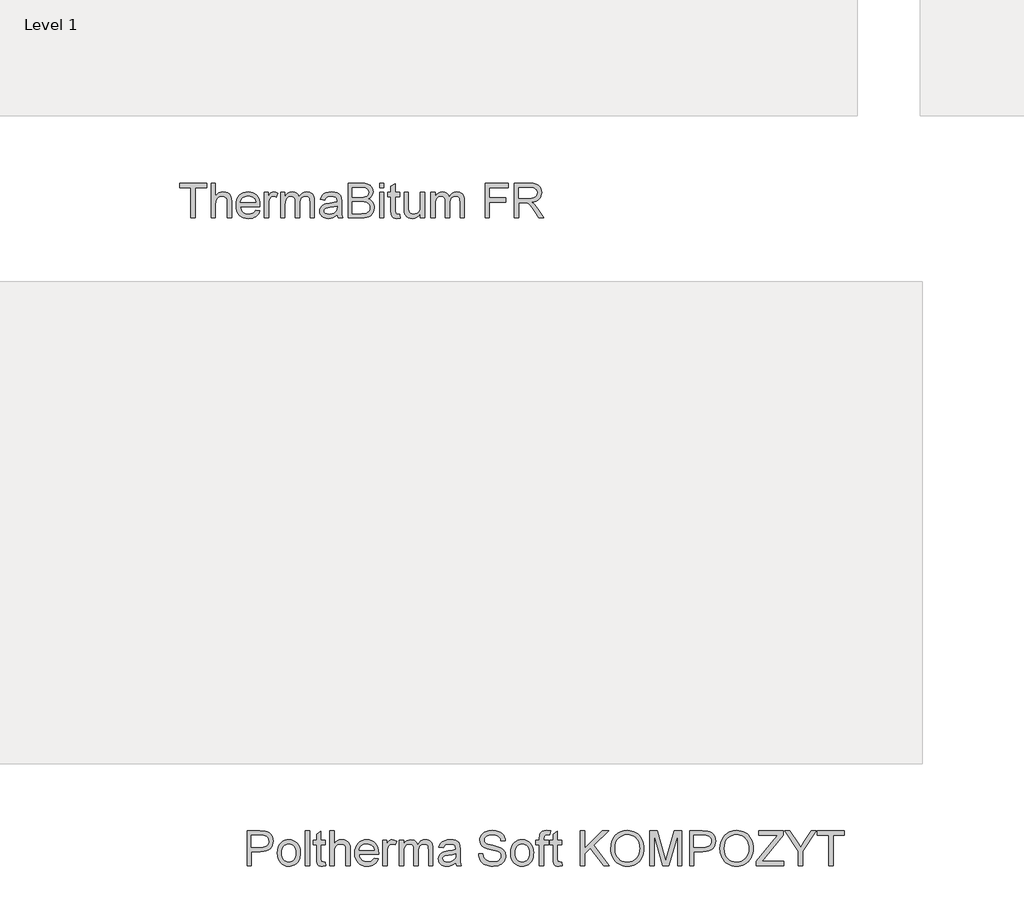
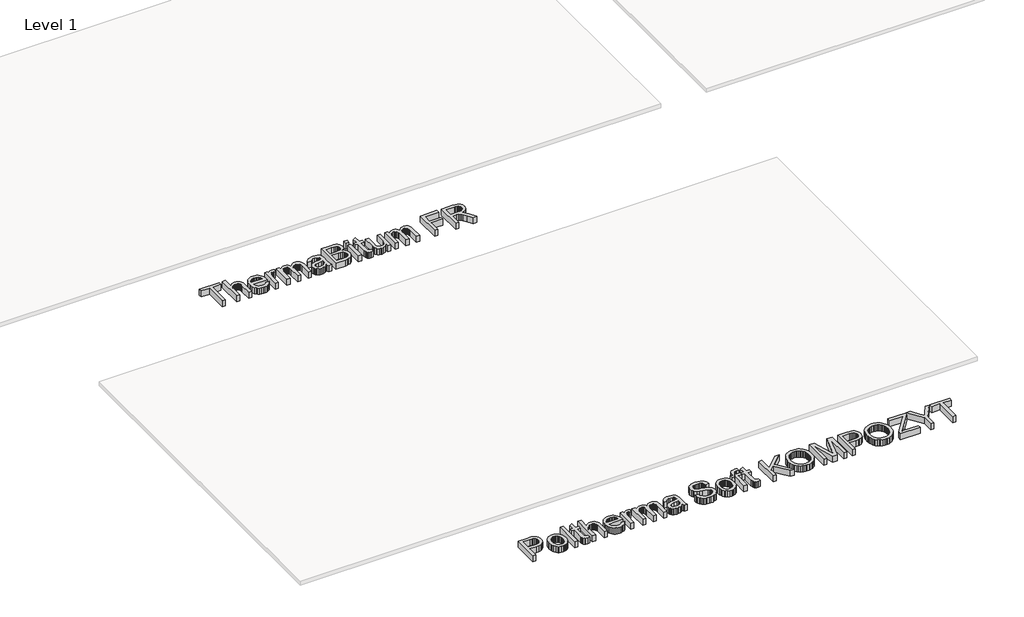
# One storey, part 17 of 27: 2 proxies.
"""IFC4 building model written with IfcOpenShell, lengths in millimetres."""

from ifc_helpers import new_model, si_unit, origin, origin_with_axes, place, context, project, spatial, polyline, outline, extrude, element, save

model = new_model("IFC4")

# Units and contexts
model_context = context("Model", 3, world=origin())
ifc_project = project(units=[si_unit("LENGTHUNIT", "METRE", prefix="MILLI")], contexts=[model_context])

# Site, building, storey
site = spatial("IfcSite", under=ifc_project)
building = spatial("IfcBuilding", under=site)
storey = spatial("IfcBuildingStorey", under=building, Name="Level 1", Elevation=0.0)

# Proxies
placement = place(None, origin())
element("IfcBuildingElementProxy", 1, Name="600mm Arial", ObjectType="600mm Arial", at=placement, inside=storey, context=model_context, shape_type="SweptSolid", body=[
    extrude(outline(polyline([(47774.77699, -34088.4076888), (47774.77699, -33571.4846119), (47580.9308362, -33571.4846119), (47580.9308362, -33497.6384581), (48042.4692977, -33497.6384581), (48042.4692977, -33571.4846119), (47848.6231439, -33571.4846119), (47848.6231439, -34088.4076888), (47774.77699, -34088.4076888)])), origin_with_axes(), (0.0, 0.0, 1.0), 150.0),
    extrude(outline(polyline([(48116.3154516, -34088.4076888), (48116.3154516, -33497.6384581), (48190.1616054, -33497.6384581), (48190.1616054, -33714.8499965), (48217.2860045, -33684.4353331), (48247.74574, -33662.7105734), (48281.5408122, -33649.6757177), (48318.6712208, -33645.3307657), (48363.2745862, -33650.0723523), (48401.6039131, -33664.2971119), (48431.7842016, -33686.8872561), (48451.9404516, -33716.7249965), (48463.2986247, -33757.7225927), (48467.0846824, -33813.7923042), (48467.0846824, -34088.4076888), (48393.2385285, -34088.4076888), (48393.2385285, -33821.436535), (48391.7691775, -33796.5026407), (48387.3611247, -33775.2105734), (48380.0143699, -33757.5603331), (48369.7289131, -33743.5519196), (48356.7481439, -33732.8878571), (48341.3154516, -33725.2706696), (48323.4308362, -33720.7003571), (48303.0942977, -33719.1769196), (48271.886365, -33723.2874965), (48242.58949, -33735.6192273), (48218.3226631, -33754.9822081), (48202.2048747, -33780.186535), (48193.1724227, -33813.6841311), (48190.1616054, -33857.9269196), (48190.1616054, -34088.4076888), (48116.3154516, -34088.4076888)])), origin_with_axes(), (0.0, 0.0, 1.0), 150.0),
    extrude(outline(polyline([(48872.3731439, -33959.1769196), (48944.77699, -33968.4076888), (48933.675728, -33997.4070879), (48918.6892497, -34022.9629773), (48899.8175549, -34045.0753571), (48877.0606439, -34063.7442273), (48850.6528915, -34078.5729532), (48820.8286727, -34089.1649004), (48787.5879876, -34095.5200686), (48750.9308362, -34097.6384581), (48705.1105237, -34093.9831095), (48664.2842016, -34083.0170638), (48628.4518699, -34064.740321), (48597.6135285, -34039.1528811), (48572.8148506, -34006.9668835), (48555.1015093, -33968.8944677), (48544.4735045, -33924.9356335), (48540.9308362, -33875.0903811), (48544.5095622, -33823.5549244), (48555.24574, -33778.1312465), (48573.1393699, -33738.8193475), (48598.1904516, -33705.6192273), (48628.9476631, -33679.2430254), (48663.9596824, -33660.4028811), (48703.2265093, -33649.0987946), (48746.7481439, -33645.3307657), (48788.8680357, -33649.0897802), (48826.9584804, -33660.3668234), (48861.019478, -33679.1618956), (48891.0510285, -33705.4749965), (48915.5657521, -33738.6030013), (48933.0762689, -33777.842785), (48943.582579, -33823.1943475), (48947.0846824, -33874.6576888), (48946.65199, -33894.561535), (48614.77699, -33894.561535), (48619.0543338, -33924.029684), (48627.559442, -33949.8379773), (48640.2923146, -33971.9864148), (48657.2529516, -33990.4749965), (48677.503853, -34005.0513186), (48700.1075189, -34015.4629773), (48725.0639492, -34021.7099725), (48752.3731439, -34023.7923042), (48791.6760285, -34019.9341311), (48824.77699, -34008.3596119), (48851.6760285, -33988.3475927), (48872.3731439, -33959.1769196)]), holes=[polyline([(48614.77699, -33820.7153811), (48873.2385285, -33820.7153811), (48863.2505477, -33781.7009581), (48854.6598025, -33766.35841), (48843.6712208, -33753.7923042), (48823.5329997, -33738.6480734), (48800.6183362, -33727.8307657), (48774.9272304, -33721.3403811), (48746.4596824, -33719.1769196), (48720.4936367, -33720.9031816), (48696.6820381, -33726.0819677), (48675.0248867, -33734.7132778), (48655.5221824, -33746.7971119), (48639.1564973, -33761.7745758), (48626.9104035, -33779.0867754), (48618.7839011, -33798.7337105), (48614.77699, -33820.7153811)])]), origin_with_axes(), (0.0, 0.0, 1.0), 150.0),
    extrude(outline(polyline([(49020.9308362, -34088.4076888), (49020.9308362, -33654.561535), (49085.5462208, -33654.561535), (49085.5462208, -33718.7442273), (49109.4164131, -33681.5326888), (49131.4116054, -33659.6096119), (49153.4789131, -33648.9004773), (49177.5654516, -33645.3307657), (49214.3442977, -33651.0278811), (49251.700067, -33668.1192273), (49227.0366054, -33734.3211504), (49201.075067, -33722.9629773), (49175.1135285, -33719.1769196), (49153.0642497, -33722.8187465), (49133.3587208, -33733.7442273), (49117.4392497, -33751.124035), (49106.7481439, -33774.1288427), (49097.7697785, -33815.3788427), (49094.77699, -33860.3788427), (49094.77699, -34088.4076888), (49020.9308362, -34088.4076888)])), origin_with_axes(), (0.0, 0.0, 1.0), 150.0),
    extrude(outline(polyline([(49297.8539131, -34088.4076888), (49297.8539131, -33654.561535), (49371.700067, -33654.561535), (49371.700067, -33725.9557657), (49393.9116054, -33693.1612946), (49422.4692977, -33667.4701888), (49456.3995862, -33650.8656215), (49494.7289131, -33645.3307657), (49535.7986247, -33650.9737946), (49553.277591, -33658.0275806), (49568.7192977, -33667.9028811), (49593.3106439, -33695.0002369), (49609.3923747, -33731.1480734), (49636.309442, -33693.6030013), (49667.012567, -33666.7850927), (49701.5017497, -33650.6943475), (49739.77699, -33645.3307657), (49769.3397905, -33647.5618355), (49795.2878074, -33654.2550446), (49817.6210405, -33665.4103931), (49836.33949, -33681.0278811), (49851.1366655, -33701.287797), (49861.7060766, -33726.3704292), (49868.0477232, -33756.2757778), (49870.1616054, -33791.0038427), (49870.1616054, -34088.4076888), (49796.3154516, -34088.4076888), (49796.3154516, -33822.7346119), (49794.6027112, -33785.9016792), (49789.46449, -33761.0759581), (49779.8370862, -33744.0747561), (49764.6567977, -33730.7153811), (49745.1315574, -33722.061535), (49722.4692977, -33719.1769196), (49701.5423146, -33721.0248763), (49682.4632881, -33726.5687465), (49665.2322184, -33735.8085302), (49649.8491054, -33748.7442273), (49637.1973626, -33765.7544436), (49628.1604035, -33787.217785), (49622.738228, -33813.1342513), (49620.9308362, -33843.5038427), (49620.9308362, -34088.4076888), (49547.0846824, -34088.4076888), (49547.0846824, -33814.5134581), (49542.8118458, -33772.7586504), (49529.9933362, -33742.9749965), (49520.081978, -33732.5633379), (49507.4392497, -33725.1264388), (49492.0651511, -33720.6642994), (49473.9596824, -33719.1769196), (49445.5101631, -33723.1432657), (49419.2962208, -33735.0423042), (49397.6616054, -33754.5855734), (49382.950067, -33781.4846119), (49374.512567, -33818.8043234), (49371.700067, -33869.6096119), (49371.700067, -34088.4076888), (49297.8539131, -34088.4076888)])), origin_with_axes(), (0.0, 0.0, 1.0), 150.0),
    extrude(outline(polyline([(50257.8539131, -34033.0230734), (50222.5714612, -34063.2754773), (50186.2433362, -34083.0711504), (50148.0402112, -34093.9966311), (50107.1327593, -34097.6384581), (50074.2526511, -34095.4479532), (50045.4200189, -34088.8764388), (50020.6348626, -34077.9239148), (49999.8971824, -34062.5903811), (49983.5224828, -34043.8493956), (49971.8262689, -34022.6745157), (49964.8085405, -33999.0657417), (49962.4692977, -33973.0230734), (49966.0029516, -33942.4100927), (49976.6039131, -33914.6096119), (49992.9560766, -33890.811535), (50013.7433362, -33872.2057657), (50038.1724227, -33858.1432657), (50065.450067, -33847.9749965), (50129.3442977, -33836.8692273), (50204.8491054, -33825.186535), (50257.4212208, -33811.4846119), (50257.8539131, -33795.0423042), (50252.7697785, -33762.0855734), (50246.4146102, -33749.8800446), (50237.5173747, -33740.5230734), (50222.1387689, -33731.1841311), (50203.4067977, -33724.5134581), (50155.8827593, -33719.1769196), (50111.8923747, -33722.7286023), (50081.1712208, -33733.3836504), (50060.2217016, -33753.0891792), (50045.5462208, -33783.7923042), (49971.700067, -33774.561535), (49984.5185766, -33734.1769196), (50003.6471824, -33702.4461504), (50030.87074, -33678.1793234), (50067.9741054, -33660.186535), (50113.3527112, -33649.0447081), (50165.40199, -33645.3307657), (50215.323865, -33648.6120157), (50254.8971824, -33658.4557657), (50284.7349227, -33673.2574484), (50305.450067, -33691.4124965), (50319.1880477, -33713.85841), (50328.0942977, -33741.5326888), (50331.700067, -33806.1480734), (50331.700067, -33898.0230734), (50335.450067, -34026.3163427), (50341.0029516, -34058.0290831), (50350.1616054, -34088.4076888), (50276.3154516, -34088.4076888), (50264.4885285, -34062.7346119), (50257.8539131, -34033.0230734)]), holes=[polyline([(50257.8539131, -33885.3307657), (50208.2385285, -33897.6264388), (50138.7192977, -33907.9749965), (50075.1856439, -33919.9461504), (50058.653192, -33928.1312465), (50046.4116054, -33939.4173042), (50038.83949, -33952.9389388), (50036.3154516, -33967.8307657), (50041.8142497, -33989.7899004), (50058.3106439, -34007.7826888), (50085.4440574, -34019.7899004), (50122.8539131, -34023.7923042), (50162.5173747, -34019.3752369), (50197.5654516, -34006.124035), (50225.9789131, -33986.5987946), (50245.7385285, -33963.3596119), (50254.5005477, -33939.4173042), (50257.4212208, -33906.2442273), (50257.8539131, -33885.3307657)])]), origin_with_axes(), (0.0, 0.0, 1.0), 150.0),
    extrude(outline(polyline([(50442.4692977, -34088.4076888), (50442.4692977, -33497.6384581), (50667.90199, -33497.6384581), (50729.903192, -33501.98341), (50778.3106439, -33515.0182657), (50815.4140093, -33537.0675446), (50830.5852833, -33551.5942874), (50843.5029516, -33568.4557657), (50861.1892497, -33605.3788427), (50867.0846824, -33644.0326888), (50862.1267497, -33679.6036023), (50847.2529516, -33713.0471119), (50822.355115, -33742.3079292), (50787.325067, -33765.3307657), (50809.613228, -33774.8319677), (50829.1700189, -33787.1817273), (50845.9954396, -33802.3800446), (50860.08949, -33820.4269196), (50871.2268098, -33840.7724725), (50879.1820381, -33862.8668234), (50883.9551751, -33886.7099725), (50885.5462208, -33912.3019196), (50881.2012689, -33953.4978331), (50868.1664131, -33991.7009581), (50848.7132881, -34024.1889388), (50825.1135285, -34048.2394196), (50796.2132881, -34065.655285), (50760.8587208, -34078.2394196), (50717.8959804, -34085.8656215), (50666.1712208, -34088.4076888), (50442.4692977, -34088.4076888)]), holes=[polyline([(50516.3154516, -33737.6384581), (50651.1712208, -33737.6384581), (50698.3346824, -33736.0519196), (50729.9212208, -33731.2923042), (50757.4873266, -33720.3487946), (50777.3010285, -33703.9605734), (50789.2541535, -33682.3800446), (50793.2385285, -33655.8596119), (50789.5245862, -33630.1144196), (50778.3827593, -33607.686535), (50760.3178554, -33590.1805254), (50735.8346824, -33579.2009581), (50698.262567, -33573.4136984), (50640.9308362, -33571.4846119), (50516.3154516, -33571.4846119), (50516.3154516, -33737.6384581)]), polyline([(50516.3154516, -34014.561535), (50667.7577593, -34014.561535), (50722.5654516, -34011.6769196), (50748.0041535, -34005.2766792), (50768.9356439, -33995.5951888), (50785.9548747, -33981.7310061), (50799.6567977, -33962.7826888), (50808.6892497, -33939.5975927), (50811.700067, -33913.0230734), (50808.1664131, -33882.1576888), (50797.5654516, -33855.6192273), (50779.0498266, -33834.8680254), (50751.7721824, -33821.3644196), (50713.136365, -33813.9545638), (50660.5462208, -33811.4846119), (50516.3154516, -33811.4846119), (50516.3154516, -34014.561535)])]), origin_with_axes(), (0.0, 0.0, 1.0), 150.0),
    extrude(outline(polyline([(50977.8539131, -34088.4076888), (50977.8539131, -33654.561535), (51051.700067, -33654.561535), (51051.700067, -34088.4076888), (50977.8539131, -34088.4076888)])), origin_with_axes(), (0.0, 0.0, 1.0), 150.0),
    extrude(outline(polyline([(50977.8539131, -33571.4846119), (50977.8539131, -33497.6384581), (51051.700067, -33497.6384581), (51051.700067, -33571.4846119), (50977.8539131, -33571.4846119)])), origin_with_axes(), (0.0, 0.0, 1.0), 150.0),
    extrude(outline(polyline([(51319.3923747, -34026.8211504), (51328.6231439, -34090.5711504), (51273.3827593, -34097.6384581), (51237.9380477, -34094.5735542), (51211.5077593, -34085.3788427), (51192.8298747, -34071.2081696), (51180.6423747, -34053.2153811), (51173.9356439, -34022.3139388), (51171.700067, -33969.4173042), (51171.700067, -33728.4076888), (51116.3154516, -33728.4076888), (51116.3154516, -33654.561535), (51171.700067, -33654.561535), (51171.700067, -33549.1288427), (51245.5462208, -33505.7153811), (51245.5462208, -33654.561535), (51319.3923747, -33654.561535), (51319.3923747, -33728.4076888), (51245.5462208, -33728.4076888), (51245.5462208, -33967.2538427), (51249.4404516, -34005.3307657), (51262.0606439, -34018.8163427), (51272.715692, -34022.5483138), (51287.2289131, -34023.7923042), (51319.3923747, -34026.8211504)])), origin_with_axes(), (0.0, 0.0, 1.0), 150.0),
    extrude(outline(polyline([(51670.1616054, -34088.4076888), (51670.1616054, -34013.8403811), (51643.4428554, -34050.5020398), (51612.325067, -34076.6889388), (51576.80824, -34092.4010782), (51536.8923747, -34097.6384581), (51500.9248266, -34093.9605734), (51467.4452593, -34082.9269196), (51439.356317, -34066.3403811), (51419.5606439, -34046.0038427), (51406.2373266, -34021.3043234), (51397.5654516, -33991.6288427), (51393.2385285, -33922.9749965), (51393.2385285, -33654.561535), (51467.0846824, -33654.561535), (51467.0846824, -33888.2153811), (51468.2024708, -33934.9461504), (51471.5558362, -33963.5038427), (51482.3190574, -33988.6180254), (51500.762567, -34007.7105734), (51525.6604035, -34019.7718715), (51555.7866054, -34023.7923042), (51587.6435766, -34019.6817273), (51617.4452593, -34007.3499965), (51642.0185766, -33987.9329292), (51658.1904516, -33962.5663427), (51667.168817, -33927.8247561), (51670.1616054, -33880.2826888), (51670.1616054, -33654.561535), (51744.0077593, -33654.561535), (51744.0077593, -34088.4076888), (51670.1616054, -34088.4076888)])), origin_with_axes(), (0.0, 0.0, 1.0), 150.0),
    extrude(outline(polyline([(51845.5462208, -34088.4076888), (51845.5462208, -33654.561535), (51919.3923747, -33654.561535), (51919.3923747, -33725.9557657), (51941.6039131, -33693.1612946), (51970.1616054, -33667.4701888), (52004.0918939, -33650.8656215), (52042.4212208, -33645.3307657), (52083.4909324, -33650.9737946), (52100.9698987, -33658.0275806), (52116.4116054, -33667.9028811), (52141.0029516, -33695.0002369), (52157.0846824, -33731.1480734), (52184.0017497, -33693.6030013), (52214.7048747, -33666.7850927), (52249.1940574, -33650.6943475), (52287.4692977, -33645.3307657), (52317.0320982, -33647.5618355), (52342.980115, -33654.2550446), (52365.3133482, -33665.4103931), (52384.0317977, -33681.0278811), (52398.8289732, -33701.287797), (52409.3983843, -33726.3704292), (52415.7400309, -33756.2757778), (52417.8539131, -33791.0038427), (52417.8539131, -34088.4076888), (52344.0077593, -34088.4076888), (52344.0077593, -33822.7346119), (52342.2950189, -33785.9016792), (52337.1567977, -33761.0759581), (52327.5293939, -33744.0747561), (52312.3491054, -33730.7153811), (52292.823865, -33722.061535), (52270.1616054, -33719.1769196), (52249.2346223, -33721.0248763), (52230.1555958, -33726.5687465), (52212.9245261, -33735.8085302), (52197.5414131, -33748.7442273), (52184.8896703, -33765.7544436), (52175.8527112, -33787.217785), (52170.4305357, -33813.1342513), (52168.6231439, -33843.5038427), (52168.6231439, -34088.4076888), (52094.77699, -34088.4076888), (52094.77699, -33814.5134581), (52090.5041535, -33772.7586504), (52077.6856439, -33742.9749965), (52067.7742857, -33732.5633379), (52055.1315574, -33725.1264388), (52039.7574588, -33720.6642994), (52021.65199, -33719.1769196), (51993.2024708, -33723.1432657), (51966.9885285, -33735.0423042), (51945.3539131, -33754.5855734), (51930.6423747, -33781.4846119), (51922.2048747, -33818.8043234), (51919.3923747, -33869.6096119), (51919.3923747, -34088.4076888), (51845.5462208, -34088.4076888)])), origin_with_axes(), (0.0, 0.0, 1.0), 150.0),
    extrude(outline(polyline([(52768.6231439, -34088.4076888), (52768.6231439, -33497.6384581), (53165.5462208, -33497.6384581), (53165.5462208, -33571.4846119), (52842.4692977, -33571.4846119), (52842.4692977, -33746.8692273), (53119.3923747, -33746.8692273), (53119.3923747, -33820.7153811), (52842.4692977, -33820.7153811), (52842.4692977, -34088.4076888), (52768.6231439, -34088.4076888)])), origin_with_axes(), (0.0, 0.0, 1.0), 150.0),
    extrude(outline(polyline([(53267.0846824, -34088.4076888), (53267.0846824, -33497.6384581), (53521.65199, -33497.6384581), (53590.0714612, -33501.6228331), (53639.8491054, -33513.5759581), (53659.058841, -33523.07716), (53676.231317, -33535.6432657), (53691.3665333, -33551.2742754), (53704.46449, -33569.9701888), (53715.0339011, -33590.725898), (53722.5834804, -33612.5362946), (53728.6231439, -33659.3211504), (53726.1216415, -33689.6636984), (53718.6171343, -33717.5182657), (53706.1096223, -33742.8848523), (53688.5991054, -33765.7634581), (53665.8602232, -33785.4239148), (53637.667615, -33801.1360542), (53604.0212809, -33812.8998763), (53564.9212208, -33820.7153811), (53589.2601631, -33836.6168234), (53606.8923747, -33852.3019196), (53666.7481439, -33928.311535), (53765.2577593, -34088.4076888), (53679.4404516, -34088.4076888), (53602.5654516, -33965.9557657), (53547.0366054, -33884.8980734), (53526.3935766, -33861.2622561), (53508.0221824, -33846.6048042), (53472.90199, -33832.5423042), (53430.0654516, -33829.9461504), (53340.9308362, -33829.9461504), (53340.9308362, -34088.4076888), (53267.0846824, -34088.4076888)]), holes=[polyline([(53340.9308362, -33756.0999965), (53506.2192977, -33756.0999965), (53553.6892497, -33753.4858138), (53590.5221824, -33745.6432657), (53618.2505477, -33732.0495157), (53638.4067977, -33712.1817273), (53650.684442, -33688.1492754), (53654.77699, -33662.061535), (53652.8253674, -33643.1763186), (53646.9704997, -33626.0399004), (53637.2123867, -33610.6522802), (53623.5510285, -33597.0134581), (53605.6709203, -33585.8445879), (53583.2565574, -33577.8668234), (53556.3079396, -33573.0801648), (53524.825067, -33571.4846119), (53340.9308362, -33571.4846119), (53340.9308362, -33756.0999965)])]), origin_with_axes(), (0.0, 0.0, 1.0), 150.0),
])
element("IfcBuildingElementProxy", 2, Name="600mm Arial", ObjectType="600mm Arial", at=placement, inside=storey, context=model_context, shape_type="SweptSolid", body=[
    extrude(outline(polyline([(48727.0846824, -45088.4076888), (48727.0846824, -44497.6384581), (48946.02699, -44497.6384581), (48997.012567, -44499.0447081), (49034.2962208, -44503.2634581), (49073.653192, -44513.7742754), (49106.0510285, -44530.8836504), (49132.1387689, -44555.3668234), (49152.5654516, -44587.999035), (49165.762567, -44626.4906215), (49170.1616054, -44668.5519196), (49167.191353, -44704.8169436), (49158.2805958, -44738.1793234), (49143.4293338, -44768.639059), (49122.637567, -44796.1961504), (49094.0933963, -44819.0386984), (49055.9849227, -44835.3548042), (49008.3121463, -44845.1444677), (48951.075067, -44848.4076888), (48800.9308362, -44848.4076888), (48800.9308362, -45088.4076888), (48727.0846824, -45088.4076888)]), holes=[polyline([(48800.9308362, -44774.561535), (48955.40199, -44774.561535), (48990.918817, -44772.8668234), (49020.8827593, -44767.7826888), (49045.293817, -44759.3091311), (49064.15199, -44747.4461504), (49078.2235045, -44732.5092513), (49088.2745862, -44714.8139388), (49094.3052352, -44694.3602129), (49096.3154516, -44671.1480734), (49091.573865, -44637.9749965), (49077.3491054, -44609.9942273), (49055.4079997, -44588.936535), (49027.5173747, -44576.5326888), (48999.0317977, -44572.7466311), (48953.6712208, -44571.4846119), (48800.9308362, -44571.4846119), (48800.9308362, -44774.561535)])]), origin_with_axes(), (0.0, 0.0, 1.0), 150.0),
    extrude(outline(polyline([(49244.0077593, -44871.4846119), (49248.0011487, -44815.2977129), (49259.981317, -44766.8812465), (49279.9482641, -44726.2352129), (49307.90199, -44693.3596119), (49336.0450189, -44672.3469917), (49367.1087208, -44657.3379773), (49401.0930958, -44648.3325686), (49437.9981439, -44645.3307657), (49478.738829, -44648.9861143), (49515.5762689, -44659.95216), (49548.5104636, -44678.2289028), (49577.5414131, -44703.8163427), (49601.2358242, -44735.8490951), (49618.1604035, -44773.4617754), (49628.3151511, -44816.6543835), (49631.700067, -44865.4269196), (49630.2036727, -44904.9551648), (49625.71449, -44940.030285), (49618.2325189, -44970.6522802), (49607.7577593, -44996.8211504), (49594.4209203, -45019.4248162), (49578.3527112, -45039.3511984), (49559.5531319, -45056.600297), (49538.0221824, -45071.1721119), (49514.598204, -45082.7511383), (49490.1195381, -45091.0218715), (49464.5861848, -45095.9843114), (49437.9981439, -45097.6384581), (49396.6625069, -45093.9966311), (49359.4825189, -45083.0711504), (49326.4581799, -45064.8620157), (49297.58949, -45039.3692273), (49274.1474828, -45007.0254773), (49257.403192, -44968.2634581), (49247.3566174, -44923.0831696), (49244.0077593, -44871.4846119)]), holes=[polyline([(49317.8539131, -44871.3403811), (49319.9903314, -44907.1591912), (49326.3995862, -44938.1733138), (49337.0816775, -44964.3827489), (49352.0366054, -44985.7874965), (49370.2277112, -45002.4145999), (49390.6183362, -45014.2911023), (49413.2084804, -45021.4170037), (49437.9981439, -45023.7923042), (49462.6616054, -45021.4034821), (49485.1616054, -45014.2370157), (49505.4981439, -45002.2929052), (49523.6712208, -44985.5711504), (49538.6261487, -44963.9545638), (49549.30824, -44937.3259581), (49555.7174949, -44905.6853331), (49557.8539131, -44869.0326888), (49555.7039732, -44834.349696), (49549.2541535, -44804.1468715), (49538.504454, -44778.4242153), (49523.4548747, -44757.1817273), (49505.2141896, -44740.5546239), (49484.8911727, -44728.6781215), (49462.4858242, -44721.5522201), (49437.9981439, -44719.1769196), (49413.2084804, -44721.5432056), (49390.6183362, -44728.6420638), (49370.2277112, -44740.4734941), (49352.0366054, -44757.0374965), (49337.0816775, -44778.3791431), (49326.3995862, -44804.5435061), (49319.9903314, -44835.5305855), (49317.8539131, -44871.3403811)])]), origin_with_axes(), (0.0, 0.0, 1.0), 150.0),
    extrude(outline(polyline([(49714.77699, -45088.4076888), (49714.77699, -44497.6384581), (49788.6231439, -44497.6384581), (49788.6231439, -45088.4076888), (49714.77699, -45088.4076888)])), origin_with_axes(), (0.0, 0.0, 1.0), 150.0),
    extrude(outline(polyline([(50056.3154516, -45026.8211504), (50065.5462208, -45090.5711504), (50010.3058362, -45097.6384581), (49974.8611247, -45094.5735542), (49948.4308362, -45085.3788427), (49929.7529516, -45071.2081696), (49917.5654516, -45053.2153811), (49910.8587208, -45022.3139388), (49908.6231439, -44969.4173042), (49908.6231439, -44728.4076888), (49853.2385285, -44728.4076888), (49853.2385285, -44654.561535), (49908.6231439, -44654.561535), (49908.6231439, -44549.1288427), (49982.4692977, -44505.7153811), (49982.4692977, -44654.561535), (50056.3154516, -44654.561535), (50056.3154516, -44728.4076888), (49982.4692977, -44728.4076888), (49982.4692977, -44967.2538427), (49986.3635285, -45005.3307657), (49998.9837208, -45018.8163427), (50009.6387689, -45022.5483138), (50024.15199, -45023.7923042), (50056.3154516, -45026.8211504)])), origin_with_axes(), (0.0, 0.0, 1.0), 150.0),
    extrude(outline(polyline([(50130.1616054, -45088.4076888), (50130.1616054, -44497.6384581), (50204.0077593, -44497.6384581), (50204.0077593, -44714.8499965), (50231.1321583, -44684.4353331), (50261.5918939, -44662.7105734), (50295.386966, -44649.6757177), (50332.5173747, -44645.3307657), (50377.12074, -44650.0723523), (50415.450067, -44664.2971119), (50445.6303554, -44686.8872561), (50465.7866054, -44716.7249965), (50477.1447785, -44757.7225927), (50480.9308362, -44813.7923042), (50480.9308362, -45088.4076888), (50407.0846824, -45088.4076888), (50407.0846824, -44821.436535), (50405.6153314, -44796.5026407), (50401.2072785, -44775.2105734), (50393.8605237, -44757.5603331), (50383.575067, -44743.5519196), (50370.5942977, -44732.8878571), (50355.1616054, -44725.2706696), (50337.27699, -44720.7003571), (50316.9404516, -44719.1769196), (50285.7325189, -44723.2874965), (50256.4356439, -44735.6192273), (50232.168817, -44754.9822081), (50216.0510285, -44780.186535), (50207.0185766, -44813.6841311), (50204.0077593, -44857.9269196), (50204.0077593, -45088.4076888), (50130.1616054, -45088.4076888)])), origin_with_axes(), (0.0, 0.0, 1.0), 150.0),
    extrude(outline(polyline([(50886.2192977, -44959.1769196), (50958.6231439, -44968.4076888), (50947.5218819, -44997.4070879), (50932.5354035, -45022.9629773), (50913.6637088, -45045.0753571), (50890.9067977, -45063.7442273), (50864.4990453, -45078.5729532), (50834.6748266, -45089.1649004), (50801.4341415, -45095.5200686), (50764.77699, -45097.6384581), (50718.9566775, -45093.9831095), (50678.1303554, -45083.0170638), (50642.2980237, -45064.740321), (50611.4596824, -45039.1528811), (50586.6610045, -45006.9668835), (50568.9476631, -44968.8944677), (50558.3196583, -44924.9356335), (50554.77699, -44875.0903811), (50558.355716, -44823.5549244), (50569.0918939, -44778.1312465), (50586.9855237, -44738.8193475), (50612.0366054, -44705.6192273), (50642.793817, -44679.2430254), (50677.8058362, -44660.4028811), (50717.0726631, -44649.0987946), (50760.5942977, -44645.3307657), (50802.7141896, -44649.0897802), (50840.8046343, -44660.3668234), (50874.8656319, -44679.1618956), (50904.8971824, -44705.4749965), (50929.4119059, -44738.6030013), (50946.9224227, -44777.842785), (50957.4287328, -44823.1943475), (50960.9308362, -44874.6576888), (50960.4981439, -44894.561535), (50628.6231439, -44894.561535), (50632.9004876, -44924.029684), (50641.4055958, -44949.8379773), (50654.1384684, -44971.9864148), (50671.0991054, -44990.4749965), (50691.3500069, -45005.0513186), (50713.9536727, -45015.4629773), (50738.910103, -45021.7099725), (50766.2192977, -45023.7923042), (50805.5221824, -45019.9341311), (50838.6231439, -45008.3596119), (50865.5221824, -44988.3475927), (50886.2192977, -44959.1769196)]), holes=[polyline([(50628.6231439, -44820.7153811), (50887.0846824, -44820.7153811), (50877.0967016, -44781.7009581), (50868.5059564, -44766.35841), (50857.5173747, -44753.7923042), (50837.3791535, -44738.6480734), (50814.46449, -44727.8307657), (50788.7733843, -44721.3403811), (50760.3058362, -44719.1769196), (50734.3397905, -44720.9031816), (50710.528192, -44726.0819677), (50688.8710405, -44734.7132778), (50669.3683362, -44746.7971119), (50653.0026511, -44761.7745758), (50640.7565574, -44779.0867754), (50632.6300549, -44798.7337105), (50628.6231439, -44820.7153811)])]), origin_with_axes(), (0.0, 0.0, 1.0), 150.0),
    extrude(outline(polyline([(51034.77699, -45088.4076888), (51034.77699, -44654.561535), (51099.3923747, -44654.561535), (51099.3923747, -44718.7442273), (51123.262567, -44681.5326888), (51145.2577593, -44659.6096119), (51167.325067, -44648.9004773), (51191.4116054, -44645.3307657), (51228.1904516, -44651.0278811), (51265.5462208, -44668.1192273), (51240.8827593, -44734.3211504), (51214.9212208, -44722.9629773), (51188.9596824, -44719.1769196), (51166.9104035, -44722.8187465), (51147.2048747, -44733.7442273), (51131.2854035, -44751.124035), (51120.5942977, -44774.1288427), (51111.6159324, -44815.3788427), (51108.6231439, -44860.3788427), (51108.6231439, -45088.4076888), (51034.77699, -45088.4076888)])), origin_with_axes(), (0.0, 0.0, 1.0), 150.0),
    extrude(outline(polyline([(51311.700067, -45088.4076888), (51311.700067, -44654.561535), (51385.5462208, -44654.561535), (51385.5462208, -44725.9557657), (51407.7577593, -44693.1612946), (51436.3154516, -44667.4701888), (51470.24574, -44650.8656215), (51508.575067, -44645.3307657), (51549.6447785, -44650.9737946), (51567.1237449, -44658.0275806), (51582.5654516, -44667.9028811), (51607.1567977, -44695.0002369), (51623.2385285, -44731.1480734), (51650.1555958, -44693.6030013), (51680.8587208, -44666.7850927), (51715.3479035, -44650.6943475), (51753.6231439, -44645.3307657), (51783.1859444, -44647.5618355), (51809.1339612, -44654.2550446), (51831.4671944, -44665.4103931), (51850.1856439, -44681.0278811), (51864.9828194, -44701.287797), (51875.5522304, -44726.3704292), (51881.8938771, -44756.2757778), (51884.0077593, -44791.0038427), (51884.0077593, -45088.4076888), (51810.1616054, -45088.4076888), (51810.1616054, -44822.7346119), (51808.448865, -44785.9016792), (51803.3106439, -44761.0759581), (51793.68324, -44744.0747561), (51778.5029516, -44730.7153811), (51758.9777112, -44722.061535), (51736.3154516, -44719.1769196), (51715.3884684, -44721.0248763), (51696.309442, -44726.5687465), (51679.0783723, -44735.8085302), (51663.6952593, -44748.7442273), (51651.0435165, -44765.7544436), (51642.0065574, -44787.217785), (51636.5843819, -44813.1342513), (51634.77699, -44843.5038427), (51634.77699, -45088.4076888), (51560.9308362, -45088.4076888), (51560.9308362, -44814.5134581), (51556.6579997, -44772.7586504), (51543.83949, -44742.9749965), (51533.9281319, -44732.5633379), (51521.2854035, -44725.1264388), (51505.9113049, -44720.6642994), (51487.8058362, -44719.1769196), (51459.356317, -44723.1432657), (51433.1423747, -44735.0423042), (51411.5077593, -44754.5855734), (51396.7962208, -44781.4846119), (51388.3587208, -44818.8043234), (51385.5462208, -44869.6096119), (51385.5462208, -45088.4076888), (51311.700067, -45088.4076888)])), origin_with_axes(), (0.0, 0.0, 1.0), 150.0),
    extrude(outline(polyline([(52271.700067, -45033.0230734), (52236.417615, -45063.2754773), (52200.08949, -45083.0711504), (52161.886365, -45093.9966311), (52120.9789131, -45097.6384581), (52088.0988049, -45095.4479532), (52059.2661727, -45088.8764388), (52034.4810165, -45077.9239148), (52013.7433362, -45062.5903811), (51997.3686367, -45043.8493956), (51985.6724227, -45022.6745157), (51978.6546944, -44999.0657417), (51976.3154516, -44973.0230734), (51979.8491054, -44942.4100927), (51990.450067, -44914.6096119), (52006.8022304, -44890.811535), (52027.58949, -44872.2057657), (52052.0185766, -44858.1432657), (52079.2962208, -44847.9749965), (52143.1904516, -44836.8692273), (52218.6952593, -44825.186535), (52271.2673747, -44811.4846119), (52271.700067, -44795.0423042), (52266.6159324, -44762.0855734), (52260.2607641, -44749.8800446), (52251.3635285, -44740.5230734), (52235.9849227, -44731.1841311), (52217.2529516, -44724.5134581), (52169.7289131, -44719.1769196), (52125.7385285, -44722.7286023), (52095.0173747, -44733.3836504), (52074.0678554, -44753.0891792), (52059.3923747, -44783.7923042), (51985.5462208, -44774.561535), (51998.3647304, -44734.1769196), (52017.4933362, -44702.4461504), (52044.7168939, -44678.1793234), (52081.8202593, -44660.186535), (52127.198865, -44649.0447081), (52179.2481439, -44645.3307657), (52229.1700189, -44648.6120157), (52268.7433362, -44658.4557657), (52298.5810766, -44673.2574484), (52319.2962208, -44691.4124965), (52333.0342016, -44713.85841), (52341.9404516, -44741.5326888), (52345.5462208, -44806.1480734), (52345.5462208, -44898.0230734), (52349.2962208, -45026.3163427), (52354.8491054, -45058.0290831), (52364.0077593, -45088.4076888), (52290.1616054, -45088.4076888), (52278.3346824, -45062.7346119), (52271.700067, -45033.0230734)]), holes=[polyline([(52271.700067, -44885.3307657), (52222.0846824, -44897.6264388), (52152.5654516, -44907.9749965), (52089.0317977, -44919.9461504), (52072.4993458, -44928.1312465), (52060.2577593, -44939.4173042), (52052.6856439, -44952.9389388), (52050.1616054, -44967.8307657), (52055.6604035, -44989.7899004), (52072.1567977, -45007.7826888), (52099.2902112, -45019.7899004), (52136.700067, -45023.7923042), (52176.3635285, -45019.3752369), (52211.4116054, -45006.124035), (52239.825067, -44986.5987946), (52259.5846824, -44963.3596119), (52268.3467016, -44939.4173042), (52271.2673747, -44906.2442273), (52271.700067, -44885.3307657)])]), origin_with_axes(), (0.0, 0.0, 1.0), 150.0),
    extrude(outline(polyline([(52659.3923747, -44885.3307657), (52733.2385285, -44885.3307657), (52741.7120862, -44926.3103331), (52757.0366054, -44959.249035), (52780.9428554, -44985.3908619), (52815.1616054, -45005.9798042), (52856.9885285, -45019.3391792), (52903.7192977, -45023.7923042), (52944.8611247, -45020.42091), (52980.8827593, -45010.3067273), (53010.0714612, -44994.2971119), (53030.71449, -44973.2394196), (53042.9921343, -44949.0627369), (53047.0846824, -44923.6961504), (53044.0197785, -44898.9786023), (53034.825067, -44877.6144196), (53016.1471824, -44859.3872561), (52984.6327593, -44844.0807657), (52877.1087208, -44815.8836504), (52806.5257881, -44797.2237946), (52761.3635285, -44779.4653811), (52724.6027112, -44754.6216311), (52698.5510285, -44724.5134581), (52683.028192, -44689.7899004), (52677.8539131, -44651.0999965), (52679.4539732, -44629.1093114), (52684.2541535, -44607.8487946), (52692.254454, -44587.318446), (52703.4548747, -44567.5182657), (52717.7292136, -44549.2550446), (52734.9512689, -44533.3355734), (52755.1210405, -44519.7598523), (52778.2385285, -44508.5278811), (52830.1976631, -44493.4377369), (52887.7096824, -44488.4076888), (52950.0173747, -44493.6721119), (53004.5366054, -44509.4653811), (53028.3887689, -44521.2292032), (53049.3202593, -44535.4629773), (53067.3310766, -44552.1667032), (53082.4212208, -44571.3403811), (53094.4735045, -44592.4251167), (53103.37074, -44614.8620157), (53109.1129275, -44638.6510782), (53111.700067, -44663.7923042), (53037.8539131, -44663.7923042), (53032.9140093, -44640.2286023), (53024.2962208, -44619.7298042), (53012.0005477, -44602.29591), (52996.02699, -44587.9269196), (52976.0780718, -44576.6949484), (52951.856317, -44568.6721119), (52923.3617256, -44563.85841), (52890.5942977, -44562.2538427), (52856.7811968, -44563.8403811), (52827.8899708, -44568.5999965), (52803.9206199, -44576.5326888), (52784.8731439, -44587.6384581), (52770.3599227, -44600.9888186), (52759.9933362, -44615.655285), (52753.7733843, -44631.6378571), (52751.700067, -44648.936535), (52757.5774708, -44677.3139388), (52775.2096824, -44700.1384581), (52791.3995862, -44710.2886984), (52816.8923747, -44720.5471119), (52895.7866054, -44741.3884581), (52977.2048747, -44761.1841311), (53026.4596824, -44778.4557657), (53068.5570381, -44805.2466311), (53084.832579, -44820.9948282), (53097.9260285, -44838.311535), (53107.9906319, -44857.1066071), (53115.1796343, -44877.2899004), (53120.9308362, -44921.8211504), (53119.2766896, -44944.9206095), (53114.3142497, -44967.3439869), (53106.0435165, -44989.0912826), (53094.46449, -45010.1624965), (53079.7799949, -45029.7418234), (53062.1928554, -45047.0134581), (53041.7030718, -45061.9774004), (53018.3106439, -45074.6336504), (52992.6961607, -45084.6982537), (52965.5402112, -45091.8872561), (52906.6039131, -45097.6384581), (52868.8289732, -45096.0879773), (52834.2541535, -45091.436535), (52802.879454, -45083.6841311), (52774.7048747, -45072.8307657), (52749.5591415, -45058.85841), (52727.2709804, -45041.749035), (52707.8403915, -45021.5026407), (52691.2673747, -44998.1192273), (52677.9170141, -44972.3560061), (52668.1543939, -44944.9701888), (52661.9795141, -44915.9617754), (52659.3923747, -44885.3307657)])), origin_with_axes(), (0.0, 0.0, 1.0), 150.0),
    extrude(outline(polyline([(53204.0077593, -44871.4846119), (53208.0011487, -44815.2977129), (53219.981317, -44766.8812465), (53239.9482641, -44726.2352129), (53267.90199, -44693.3596119), (53296.0450189, -44672.3469917), (53327.1087208, -44657.3379773), (53361.0930958, -44648.3325686), (53397.9981439, -44645.3307657), (53438.738829, -44648.9861143), (53475.5762689, -44659.95216), (53508.5104636, -44678.2289028), (53537.5414131, -44703.8163427), (53561.2358242, -44735.8490951), (53578.1604035, -44773.4617754), (53588.3151511, -44816.6543835), (53591.700067, -44865.4269196), (53590.2036727, -44904.9551648), (53585.71449, -44940.030285), (53578.2325189, -44970.6522802), (53567.7577593, -44996.8211504), (53554.4209203, -45019.4248162), (53538.3527112, -45039.3511984), (53519.5531319, -45056.600297), (53498.0221824, -45071.1721119), (53474.598204, -45082.7511383), (53450.1195381, -45091.0218715), (53424.5861848, -45095.9843114), (53397.9981439, -45097.6384581), (53356.6625069, -45093.9966311), (53319.4825189, -45083.0711504), (53286.4581799, -45064.8620157), (53257.58949, -45039.3692273), (53234.1474828, -45007.0254773), (53217.403192, -44968.2634581), (53207.3566174, -44923.0831696), (53204.0077593, -44871.4846119)]), holes=[polyline([(53277.8539131, -44871.3403811), (53279.9903314, -44907.1591912), (53286.3995862, -44938.1733138), (53297.0816775, -44964.3827489), (53312.0366054, -44985.7874965), (53330.2277112, -45002.4145999), (53350.6183362, -45014.2911023), (53373.2084804, -45021.4170037), (53397.9981439, -45023.7923042), (53422.6616054, -45021.4034821), (53445.1616054, -45014.2370157), (53465.4981439, -45002.2929052), (53483.6712208, -44985.5711504), (53498.6261487, -44963.9545638), (53509.30824, -44937.3259581), (53515.7174949, -44905.6853331), (53517.8539131, -44869.0326888), (53515.7039732, -44834.349696), (53509.2541535, -44804.1468715), (53498.504454, -44778.4242153), (53483.4548747, -44757.1817273), (53465.2141896, -44740.5546239), (53444.8911727, -44728.6781215), (53422.4858242, -44721.5522201), (53397.9981439, -44719.1769196), (53373.2084804, -44721.5432056), (53350.6183362, -44728.6420638), (53330.2277112, -44740.4734941), (53312.0366054, -44757.0374965), (53297.0816775, -44778.3791431), (53286.3995862, -44804.5435061), (53279.9903314, -44835.5305855), (53277.8539131, -44871.3403811)])]), origin_with_axes(), (0.0, 0.0, 1.0), 150.0),
    extrude(outline(polyline([(53693.2385285, -45088.4076888), (53693.2385285, -44728.4076888), (53628.6231439, -44728.4076888), (53628.6231439, -44654.561535), (53693.2385285, -44654.561535), (53693.2385285, -44610.8596119), (53695.1856439, -44574.6937465), (53701.02699, -44549.2730734), (53715.8827593, -44524.717785), (53738.8154516, -44505.2826888), (53770.9067977, -44492.6264388), (53813.2385285, -44488.4076888), (53845.293817, -44490.4269196), (53880.5942977, -44496.4846119), (53869.77699, -44565.7153811), (53827.2289131, -44562.2538427), (53799.1579997, -44565.3187465), (53780.71449, -44574.5134581), (53770.4921343, -44592.0735542), (53767.0846824, -44620.2346119), (53767.0846824, -44654.561535), (53850.1616054, -44654.561535), (53850.1616054, -44728.4076888), (53767.0846824, -44728.4076888), (53767.0846824, -45088.4076888), (53693.2385285, -45088.4076888)])), origin_with_axes(), (0.0, 0.0, 1.0), 150.0),
    extrude(outline(polyline([(54071.700067, -45026.8211504), (54080.9308362, -45090.5711504), (54025.6904516, -45097.6384581), (53990.24574, -45094.5735542), (53963.8154516, -45085.3788427), (53945.137567, -45071.2081696), (53932.950067, -45053.2153811), (53926.2433362, -45022.3139388), (53924.0077593, -44969.4173042), (53924.0077593, -44728.4076888), (53868.6231439, -44728.4076888), (53868.6231439, -44654.561535), (53924.0077593, -44654.561535), (53924.0077593, -44549.1288427), (53997.8539131, -44505.7153811), (53997.8539131, -44654.561535), (54071.700067, -44654.561535), (54071.700067, -44728.4076888), (53997.8539131, -44728.4076888), (53997.8539131, -44967.2538427), (54001.7481439, -45005.3307657), (54014.3683362, -45018.8163427), (54025.0233843, -45022.5483138), (54039.5366054, -45023.7923042), (54071.700067, -45026.8211504)])), origin_with_axes(), (0.0, 0.0, 1.0), 150.0),
    extrude(outline(polyline([(54385.5462208, -45088.4076888), (54385.5462208, -44497.6384581), (54459.3923747, -44497.6384581), (54459.3923747, -44786.8211504), (54762.27699, -44497.6384581), (54865.5462208, -44497.6384581), (54611.2673747, -44740.5230734), (54874.77699, -45088.4076888), (54784.4885285, -45088.4076888), (54558.9116054, -44790.4269196), (54459.3923747, -44885.3307657), (54459.3923747, -45088.4076888), (54385.5462208, -45088.4076888)])), origin_with_axes(), (0.0, 0.0, 1.0), 150.0),
    extrude(outline(polyline([(54902.4692977, -44800.811535), (54907.3911727, -44731.5176648), (54922.1567977, -44670.1745157), (54946.7661727, -44616.7820879), (54981.2192977, -44571.3403811), (55023.4518699, -44535.0573282), (55071.3995862, -44509.1408619), (55125.0624468, -44493.5909821), (55184.4404516, -44488.4076888), (55224.1850429, -44490.8415831), (55261.9284324, -44498.1432657), (55297.6706199, -44510.3127369), (55331.4116054, -44527.3499965), (55362.2048747, -44548.7412225), (55389.1039131, -44573.9725927), (55412.1087208, -44603.0441071), (55431.2192977, -44635.9557657), (55446.2373266, -44671.9593715), (55456.96449, -44710.3067273), (55463.4007881, -44750.9978331), (55465.5462208, -44794.0326888), (55463.2881078, -44837.6354532), (55456.5137689, -44878.8764388), (55445.223204, -44917.7556456), (55429.4164131, -44954.2730734), (55409.4674949, -44987.4641792), (55385.7505477, -45016.3644196), (55358.2655718, -45040.9737946), (55327.012567, -45061.2923042), (55293.2220021, -45077.1937465), (55258.1243458, -45088.5519196), (55221.7195982, -45095.3668234), (55184.0077593, -45097.6384581), (55143.5690574, -45095.1279412), (55105.3298747, -45087.5963907), (55069.2902112, -45075.0438066), (55035.450067, -45057.4701888), (55004.6928554, -45035.5561263), (54977.90199, -45009.9822081), (54955.0774708, -44980.748434), (54936.2192977, -44947.8548042), (54921.4536727, -44912.6219316), (54910.9067977, -44876.3704292), (54904.5786727, -44839.100297), (54902.4692977, -44800.811535)]), holes=[polyline([(54976.3154516, -44801.5326888), (54980.0068578, -44850.4900206), (54991.0810766, -44893.9485542), (55009.5381078, -44931.9082898), (55035.3779516, -44964.3692273), (55066.7887088, -44990.3668234), (55101.9584804, -45008.936535), (55140.8872665, -45020.0783619), (55183.575067, -45023.7923042), (55226.9930357, -45020.0423042), (55266.3815574, -45008.7923042), (55301.7406319, -44990.0423042), (55333.0702593, -44963.7923042), (55358.7208001, -44930.6462706), (55377.042615, -44891.2081696), (55388.035704, -44845.4780013), (55391.700067, -44793.4557657), (55390.1315574, -44759.6606936), (55385.4260285, -44728.0831696), (55377.5834804, -44698.7231936), (55366.6039131, -44671.5807657), (55352.6090213, -44647.0119556), (55335.7204997, -44625.3728331), (55315.9383482, -44606.663398), (55293.262567, -44590.8836504), (55268.3962809, -44578.3581095), (55242.042615, -44569.4112946), (55214.2015694, -44564.0432056), (55184.8731439, -44562.2538427), (55143.668216, -44565.7018595), (55105.4380477, -44576.04591), (55070.1826391, -44593.2859941), (55037.90199, -44617.4221119), (55010.9578795, -44649.6171239), (54991.7120862, -44691.0338907), (54980.1646102, -44741.6724124), (54976.3154516, -44801.5326888)])]), origin_with_axes(), (0.0, 0.0, 1.0), 150.0),
    extrude(outline(polyline([(55567.0846824, -45088.4076888), (55567.0846824, -44497.6384581), (55694.15199, -44497.6384581), (55815.0173747, -44914.0326888), (55839.3923747, -45001.0038427), (55865.7866054, -44906.8211504), (55984.6327593, -44497.6384581), (56111.700067, -44497.6384581), (56111.700067, -45088.4076888), (56037.8539131, -45088.4076888), (56037.8539131, -44571.4846119), (55889.4404516, -45088.4076888), (55789.3442977, -45088.4076888), (55640.9308362, -44571.4846119), (55640.9308362, -45088.4076888), (55567.0846824, -45088.4076888)])), origin_with_axes(), (0.0, 0.0, 1.0), 150.0),
    extrude(outline(polyline([(56240.9308362, -45088.4076888), (56240.9308362, -44497.6384581), (56459.8731439, -44497.6384581), (56510.8587208, -44499.0447081), (56548.1423747, -44503.2634581), (56587.4993458, -44513.7742754), (56619.8971824, -44530.8836504), (56645.9849227, -44555.3668234), (56666.4116054, -44587.999035), (56679.6087208, -44626.4906215), (56684.0077593, -44668.5519196), (56681.0375069, -44704.8169436), (56672.1267497, -44738.1793234), (56657.2754876, -44768.639059), (56636.4837208, -44796.1961504), (56607.9395501, -44819.0386984), (56569.8310766, -44835.3548042), (56522.1583001, -44845.1444677), (56464.9212208, -44848.4076888), (56314.77699, -44848.4076888), (56314.77699, -45088.4076888), (56240.9308362, -45088.4076888)]), holes=[polyline([(56314.77699, -44774.561535), (56469.2481439, -44774.561535), (56504.7649708, -44772.8668234), (56534.7289131, -44767.7826888), (56559.1399708, -44759.3091311), (56577.9981439, -44747.4461504), (56592.0696583, -44732.5092513), (56602.12074, -44714.8139388), (56608.1513891, -44694.3602129), (56610.1616054, -44671.1480734), (56605.4200189, -44637.9749965), (56591.1952593, -44609.9942273), (56569.2541535, -44588.936535), (56541.3635285, -44576.5326888), (56512.8779516, -44572.7466311), (56467.5173747, -44571.4846119), (56314.77699, -44571.4846119), (56314.77699, -44774.561535)])]), origin_with_axes(), (0.0, 0.0, 1.0), 150.0),
    extrude(outline(polyline([(56757.8539131, -44800.811535), (56762.7757881, -44731.5176648), (56777.5414131, -44670.1745157), (56802.1507881, -44616.7820879), (56836.6039131, -44571.3403811), (56878.8364852, -44535.0573282), (56926.7842016, -44509.1408619), (56980.4470622, -44493.5909821), (57039.825067, -44488.4076888), (57079.5696583, -44490.8415831), (57117.3130477, -44498.1432657), (57153.0552352, -44510.3127369), (57186.7962208, -44527.3499965), (57217.58949, -44548.7412225), (57244.4885285, -44573.9725927), (57267.4933362, -44603.0441071), (57286.6039131, -44635.9557657), (57301.621942, -44671.9593715), (57312.3491054, -44710.3067273), (57318.7854035, -44750.9978331), (57320.9308362, -44794.0326888), (57318.6727232, -44837.6354532), (57311.8983843, -44878.8764388), (57300.6078194, -44917.7556456), (57284.8010285, -44954.2730734), (57264.8521102, -44987.4641792), (57241.1351631, -45016.3644196), (57213.6501872, -45040.9737946), (57182.3971824, -45061.2923042), (57148.6066174, -45077.1937465), (57113.5089612, -45088.5519196), (57077.1042136, -45095.3668234), (57039.3923747, -45097.6384581), (56998.9536727, -45095.1279412), (56960.71449, -45087.5963907), (56924.6748266, -45075.0438066), (56890.8346824, -45057.4701888), (56860.0774708, -45035.5561263), (56833.2866054, -45009.9822081), (56810.4620862, -44980.748434), (56791.6039131, -44947.8548042), (56776.8382881, -44912.6219316), (56766.2914131, -44876.3704292), (56759.9632881, -44839.100297), (56757.8539131, -44800.811535)]), holes=[polyline([(56831.700067, -44801.5326888), (56835.3914732, -44850.4900206), (56846.465692, -44893.9485542), (56864.9227232, -44931.9082898), (56890.762567, -44964.3692273), (56922.1733242, -44990.3668234), (56957.3430958, -45008.936535), (56996.2718819, -45020.0783619), (57038.9596824, -45023.7923042), (57082.3776511, -45020.0423042), (57121.7661727, -45008.7923042), (57157.1252473, -44990.0423042), (57188.4548747, -44963.7923042), (57214.1054155, -44930.6462706), (57232.4272304, -44891.2081696), (57243.4203194, -44845.4780013), (57247.0846824, -44793.4557657), (57245.5161727, -44759.6606936), (57240.8106439, -44728.0831696), (57232.9680958, -44698.7231936), (57221.9885285, -44671.5807657), (57207.9936367, -44647.0119556), (57191.105115, -44625.3728331), (57171.3229636, -44606.663398), (57148.6471824, -44590.8836504), (57123.7808963, -44578.3581095), (57097.4272304, -44569.4112946), (57069.5861848, -44564.0432056), (57040.2577593, -44562.2538427), (56999.0528314, -44565.7018595), (56960.8226631, -44576.04591), (56925.5672545, -44593.2859941), (56893.2866054, -44617.4221119), (56866.3424949, -44649.6171239), (56847.0967016, -44691.0338907), (56835.5492256, -44741.6724124), (56831.700067, -44801.5326888)])]), origin_with_axes(), (0.0, 0.0, 1.0), 150.0),
    extrude(outline(polyline([(57376.3154516, -45088.4076888), (57376.3154516, -45011.8211504), (57678.4789131, -44641.8692273), (57735.8827593, -44571.4846119), (57413.2385285, -44571.4846119), (57413.2385285, -44497.6384581), (57828.6231439, -44497.6384581), (57828.6231439, -44571.4846119), (57497.90199, -44976.3403811), (57466.7481439, -45014.561535), (57837.8539131, -45014.561535), (57837.8539131, -45088.4076888), (57376.3154516, -45088.4076888)])), origin_with_axes(), (0.0, 0.0, 1.0), 150.0),
    extrude(outline(polyline([(58087.0846824, -45088.4076888), (58087.0846824, -44838.1673042), (57856.3154516, -44497.6384581), (57943.4308362, -44497.6384581), (58066.6039131, -44679.5134581), (58129.6327593, -44772.2538427), (58192.8058362, -44672.8788427), (58304.5846824, -44497.6384581), (58391.700067, -44497.6384581), (58160.9308362, -44838.1673042), (58160.9308362, -45088.4076888), (58087.0846824, -45088.4076888)])), origin_with_axes(), (0.0, 0.0, 1.0), 150.0),
    extrude(outline(polyline([(58604.0077593, -45088.4076888), (58604.0077593, -44571.4846119), (58410.1616054, -44571.4846119), (58410.1616054, -44497.6384581), (58871.700067, -44497.6384581), (58871.700067, -44571.4846119), (58677.8539131, -44571.4846119), (58677.8539131, -45088.4076888), (58604.0077593, -45088.4076888)])), origin_with_axes(), (0.0, 0.0, 1.0), 150.0),
])

save(model, "model.ifc")
